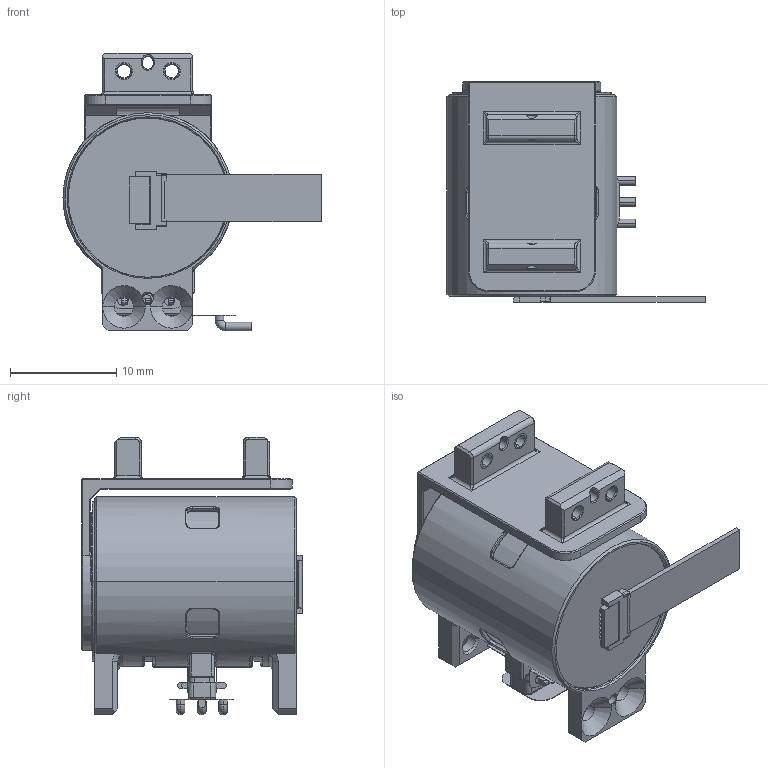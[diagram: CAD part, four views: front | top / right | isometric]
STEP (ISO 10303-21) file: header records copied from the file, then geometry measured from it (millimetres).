
FILE_DESCRIPTION((''),'2;1');
FILE_NAME('X16L-UM304050-MH-1_ASM','2026-09-01T10:23:12',('wenbo'),(''),'CREO PARAMETRIC BY PTC INC, 2024325','CREO PARAMETRIC BY PTC INC, 2024325','');
FILE_SCHEMA(('CONFIG_CONTROL_DESIGN'));
Length unit declared in the file: millimetre
Products named in the file (28): 083000000001_36LAYER_66_1_1_1_3; ZUZHUANG_ASM_3_ASM_1_ASM_1_AS_2_ASM; YUANZHU1_1_1_1_1_1_2_1; 025000000002_AF0_1_1_1_1_2_1__2; 025300000001_1_1_1_1_2_1_1_1__2; 025000000001_ASM_1_1_ASM_1_1__3_ASM; JIECHAZUO_ASM_2_ASM_1_ASM_1_A_2_ASM; BANJINFPC2_6_1_1_1_1_2_1; FPCBANJIN_16_1_1_1_1_2_1; DIANXIAN_3_1_1_1_1_2_1; YUANZHU_4_1_1_1_1_2_1; ZUZHUANG_ASM_ASM_1_ASM_1_ASM__2_ASM; 16MML_ASM_1_ASM_1_ASM_1_1_2_ASM_ASM; PCB_1_1_1_2_1; CHANGTIAO_1_1_1_2_1; 16MML_ASM_1_ASM_1_1_2_ASM_1_ASM; 094200000009_38_1_1; XIAO_1_1_1_1_2_1; X16L-UM50-MH-1_ASM_1_1_2_ASM_1_ASM; BEARING_1; ASM0003_ASM_1_ASM; 200; 400; 100; 300; FPC-SMD_0510-GX-7PWB-GF-RB_FP_1_ASM; FPC-SMD_0510-GX-7PWB-GF-RB_FPC-_ASM; X16L-UM304050-MH-1_ASM
Assembly tree (39 placements, depth 9):
  X16L-UM304050-MH-1_ASM
    ASM0003_ASM_1_ASM
      X16L-UM50-MH-1_ASM_1_1_2_ASM_1_ASM
        16MML_ASM_1_ASM_1_1_2_ASM_1_ASM
          16MML_ASM_1_ASM_1_ASM_1_1_2_ASM_ASM
            ZUZHUANG_ASM_ASM_1_ASM_1_ASM__2_ASM
              ZUZHUANG_ASM_3_ASM_1_ASM_1_AS_2_ASM
                083000000001_36LAYER_66_1_1_1_3
              YUANZHU1_1_1_1_1_1_2_1
              JIECHAZUO_ASM_2_ASM_1_ASM_1_A_2_ASM
                025000000001_ASM_1_1_ASM_1_1__3_ASM
                  025000000002_AF0_1_1_1_1_2_1__2
                  025300000001_1_1_1_1_2_1_1_1__2  x3
              BANJINFPC2_6_1_1_1_1_2_1
              FPCBANJIN_16_1_1_1_1_2_1  x2
              DIANXIAN_3_1_1_1_1_2_1  x3
              YUANZHU_4_1_1_1_1_2_1
          PCB_1_1_1_2_1
          CHANGTIAO_1_1_1_2_1
        094200000009_38_1_1
        XIAO_1_1_1_1_2_1  x8
      BEARING_1
    FPC-SMD_0510-GX-7PWB-GF-RB_FPC-_ASM
      FPC-SMD_0510-GX-7PWB-GF-RB_FP_1_ASM
        200
        400
        100
        300
Bounding box: 24.32 x 20.75 x 26.15 mm (x, y, z)
Volume: 3784.3 mm3; surface area: 5915.4 mm2
Topology: 29 solids, 33 shells, 1367 faces, 3712 edges, 2423 vertices
Faces by surface type: plane 621, cylinder 384, torus 102, extrusion 102, cone 98, bspline 56, sphere 4
Entity records: 44691 total; most frequent: CARTESIAN_POINT 12170, ORIENTED_EDGE 6792, DIRECTION 6623, EDGE_CURVE 3404, AXIS2_PLACEMENT_3D 2317, VERTEX_POINT 2231, VECTOR 1989, LINE 1887
